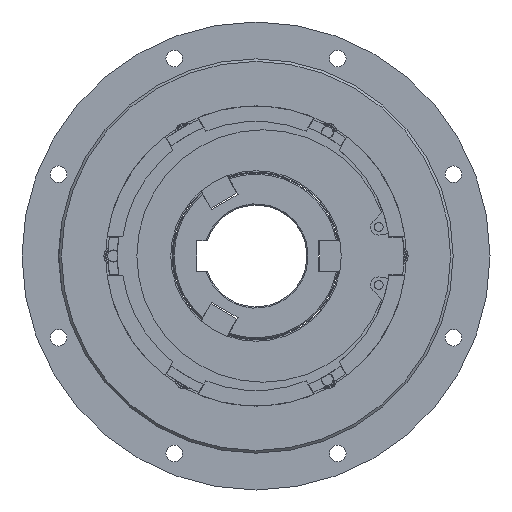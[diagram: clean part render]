
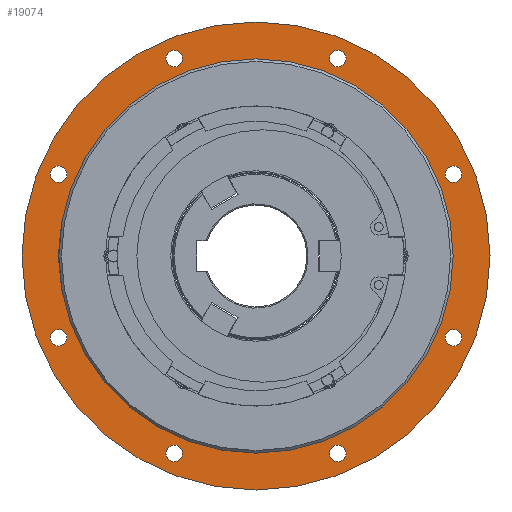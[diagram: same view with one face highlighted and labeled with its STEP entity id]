
A CAD part, left-side view. The second image highlights one B-rep face of the part: STEP entity #19074.
In plain terms, the highlighted planar face has unit normal (-1, 0, 0).
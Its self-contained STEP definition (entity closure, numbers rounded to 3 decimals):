
#768=FACE_BOUND('',#5374,.T.);
#769=FACE_BOUND('',#5375,.T.);
#770=FACE_BOUND('',#5376,.T.);
#771=FACE_BOUND('',#5377,.T.);
#772=FACE_BOUND('',#5378,.T.);
#773=FACE_BOUND('',#5379,.T.);
#774=FACE_BOUND('',#5380,.T.);
#775=FACE_BOUND('',#5381,.T.);
#776=FACE_BOUND('',#5382,.T.);
#3366=PLANE('',#20544);
#4149=FACE_OUTER_BOUND('',#5373,.T.);
#5373=EDGE_LOOP('',(#14144));
#5374=EDGE_LOOP('',(#14145));
#5375=EDGE_LOOP('',(#14146));
#5376=EDGE_LOOP('',(#14147));
#5377=EDGE_LOOP('',(#14148));
#5378=EDGE_LOOP('',(#14149));
#5379=EDGE_LOOP('',(#14150));
#5380=EDGE_LOOP('',(#14151));
#5381=EDGE_LOOP('',(#14152));
#5382=EDGE_LOOP('',(#14153));
#6984=CIRCLE('',#20545,92.);
#6985=CIRCLE('',#20546,3.25);
#6986=CIRCLE('',#20547,3.25);
#6987=CIRCLE('',#20548,3.25);
#6988=CIRCLE('',#20549,3.25);
#6989=CIRCLE('',#20550,3.25);
#6990=CIRCLE('',#20551,3.25);
#6991=CIRCLE('',#20552,3.25);
#6992=CIRCLE('',#20553,3.25);
#6993=CIRCLE('',#20554,77.5);
#8497=VERTEX_POINT('',#53140);
#8498=VERTEX_POINT('',#53142);
#8499=VERTEX_POINT('',#53144);
#8500=VERTEX_POINT('',#53146);
#8501=VERTEX_POINT('',#53148);
#8502=VERTEX_POINT('',#53150);
#8503=VERTEX_POINT('',#53152);
#8504=VERTEX_POINT('',#53154);
#8505=VERTEX_POINT('',#53156);
#8506=VERTEX_POINT('',#53158);
#10653=EDGE_CURVE('',#8497,#8497,#6984,.T.);
#10654=EDGE_CURVE('',#8498,#8498,#6985,.T.);
#10655=EDGE_CURVE('',#8499,#8499,#6986,.T.);
#10656=EDGE_CURVE('',#8500,#8500,#6987,.T.);
#10657=EDGE_CURVE('',#8501,#8501,#6988,.T.);
#10658=EDGE_CURVE('',#8502,#8502,#6989,.T.);
#10659=EDGE_CURVE('',#8503,#8503,#6990,.T.);
#10660=EDGE_CURVE('',#8504,#8504,#6991,.T.);
#10661=EDGE_CURVE('',#8505,#8505,#6992,.T.);
#10662=EDGE_CURVE('',#8506,#8506,#6993,.T.);
#14144=ORIENTED_EDGE('',*,*,#10653,.F.);
#14145=ORIENTED_EDGE('',*,*,#10654,.T.);
#14146=ORIENTED_EDGE('',*,*,#10655,.T.);
#14147=ORIENTED_EDGE('',*,*,#10656,.T.);
#14148=ORIENTED_EDGE('',*,*,#10657,.T.);
#14149=ORIENTED_EDGE('',*,*,#10658,.T.);
#14150=ORIENTED_EDGE('',*,*,#10659,.T.);
#14151=ORIENTED_EDGE('',*,*,#10660,.T.);
#14152=ORIENTED_EDGE('',*,*,#10661,.T.);
#14153=ORIENTED_EDGE('',*,*,#10662,.T.);
#19074=ADVANCED_FACE('',(#4149,#768,#769,#770,#771,#772,#773,#774,#775,
#776),#3366,.T.);
#20544=AXIS2_PLACEMENT_3D('',#53139,#23567,#23568);
#20545=AXIS2_PLACEMENT_3D('',#53141,#23569,#23570);
#20546=AXIS2_PLACEMENT_3D('',#53143,#23571,#23572);
#20547=AXIS2_PLACEMENT_3D('',#53145,#23573,#23574);
#20548=AXIS2_PLACEMENT_3D('',#53147,#23575,#23576);
#20549=AXIS2_PLACEMENT_3D('',#53149,#23577,#23578);
#20550=AXIS2_PLACEMENT_3D('',#53151,#23579,#23580);
#20551=AXIS2_PLACEMENT_3D('',#53153,#23581,#23582);
#20552=AXIS2_PLACEMENT_3D('',#53155,#23583,#23584);
#20553=AXIS2_PLACEMENT_3D('',#53157,#23585,#23586);
#20554=AXIS2_PLACEMENT_3D('',#53159,#23587,#23588);
#23567=DIRECTION('center_axis',(-1.,0.,0.));
#23568=DIRECTION('ref_axis',(0.,0.,
1.));
#23569=DIRECTION('center_axis',(1.,0.,0.));
#23570=DIRECTION('ref_axis',(0.,1.,0.));
#23571=DIRECTION('center_axis',(1.,0.,0.));
#23572=DIRECTION('ref_axis',(0.,0.,
-1.));
#23573=DIRECTION('center_axis',(1.,0.,0.));
#23574=DIRECTION('ref_axis',(0.,0.,
-1.));
#23575=DIRECTION('center_axis',(1.,0.,0.));
#23576=DIRECTION('ref_axis',(0.,0.,
-1.));
#23577=DIRECTION('center_axis',(1.,0.,0.));
#23578=DIRECTION('ref_axis',(0.,0.,
-1.));
#23579=DIRECTION('center_axis',(1.,0.,0.));
#23580=DIRECTION('ref_axis',(0.,0.,
-1.));
#23581=DIRECTION('center_axis',(1.,0.,0.));
#23582=DIRECTION('ref_axis',(0.,0.,
-1.));
#23583=DIRECTION('center_axis',(1.,0.,0.));
#23584=DIRECTION('ref_axis',(0.,0.,
-1.));
#23585=DIRECTION('center_axis',(1.,0.,0.));
#23586=DIRECTION('ref_axis',(0.,0.,
-1.));
#23587=DIRECTION('center_axis',(1.,0.,0.));
#23588=DIRECTION('ref_axis',(0.,1.,0.));
#53139=CARTESIAN_POINT('Origin',(4.5,79.75,0.));
#53140=CARTESIAN_POINT('',(4.5,92.,0.));
#53141=CARTESIAN_POINT('Origin',(4.5,0.,0.));
#53142=CARTESIAN_POINT('',(4.5,77.606,35.395));
#53143=CARTESIAN_POINT('Origin',(4.5,77.606,32.145));
#53144=CARTESIAN_POINT('',(4.5,32.145,80.856));
#53145=CARTESIAN_POINT('Origin',(4.5,32.145,77.606));
#53146=CARTESIAN_POINT('',(4.5,-32.145,80.856));
#53147=CARTESIAN_POINT('Origin',(4.5,-32.145,77.606));
#53148=CARTESIAN_POINT('',(4.5,-77.606,35.395));
#53149=CARTESIAN_POINT('Origin',(4.5,-77.606,32.145));
#53150=CARTESIAN_POINT('',(4.5,-77.606,-28.895));
#53151=CARTESIAN_POINT('Origin',(4.5,-77.606,-32.145));
#53152=CARTESIAN_POINT('',(4.5,-32.145,-74.356));
#53153=CARTESIAN_POINT('Origin',(4.5,-32.145,-77.606));
#53154=CARTESIAN_POINT('',(4.5,32.145,-74.356));
#53155=CARTESIAN_POINT('Origin',(4.5,32.145,-77.606));
#53156=CARTESIAN_POINT('',(4.5,77.606,-28.895));
#53157=CARTESIAN_POINT('Origin',(4.5,77.606,-32.145));
#53158=CARTESIAN_POINT('',(4.5,77.5,0.));
#53159=CARTESIAN_POINT('Origin',(4.5,0.,0.));
